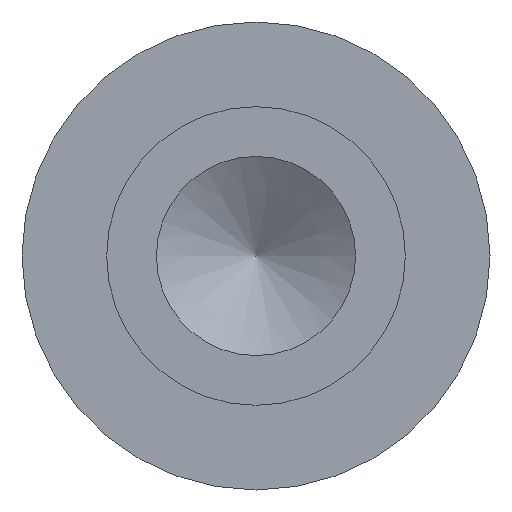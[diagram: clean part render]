
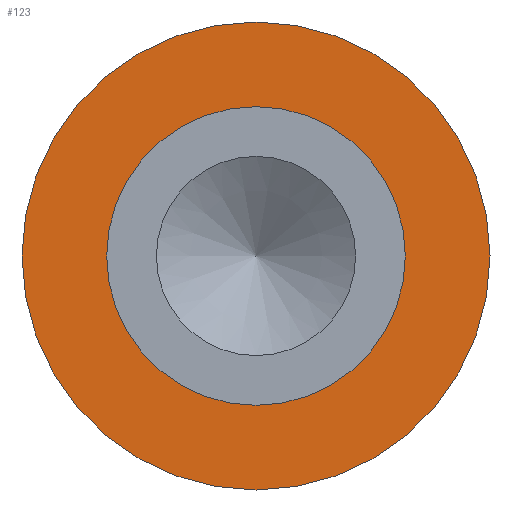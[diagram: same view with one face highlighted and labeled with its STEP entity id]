
A CAD part, left-side view. The second image highlights one B-rep face of the part: STEP entity #123.
In plain terms, the highlighted planar face has unit normal (-1, 0, 0).
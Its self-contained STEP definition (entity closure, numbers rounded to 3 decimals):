
#15=PLANE($,#147);
#24=FACE_BOUND($,#58,.T.);
#40=FACE_OUTER_BOUND($,#57,.T.);
#57=EDGE_LOOP($,(#107));
#58=EDGE_LOOP($,(#108));
#68=CIRCLE($,#143,1.194);
#69=CIRCLE($,#145,0.762);
#78=VERTEX_POINT($,#216);
#79=VERTEX_POINT($,#219);
#88=EDGE_CURVE($,#78,#78,#68,.T.);
#89=EDGE_CURVE($,#79,#79,#69,.T.);
#107=ORIENTED_EDGE($,*,*,#88,.F.);
#108=ORIENTED_EDGE($,*,*,#89,.T.);
#123=ADVANCED_FACE($,(#40,#24),#15,.T.);
#143=AXIS2_PLACEMENT_3D($,#217,#181,#182);
#145=AXIS2_PLACEMENT_3D($,#220,#185,#186);
#147=AXIS2_PLACEMENT_3D($,#223,#189,#190);
#181=DIRECTION('center_axis',(1.,0.,0.));
#182=DIRECTION('ref_axis',(0.,1.,0.));
#185=DIRECTION('center_axis',(1.,0.,0.));
#186=DIRECTION('ref_axis',(0.,1.,0.));
#189=DIRECTION('center_axis',(-1.,0.,0.));
#190=DIRECTION('ref_axis',(0.,0.,1.));
#216=CARTESIAN_POINT('',(2.388,1.194,0.));
#217=CARTESIAN_POINT('Origin',(2.388,0.,0.));
#219=CARTESIAN_POINT('',(2.388,0.762,0.));
#220=CARTESIAN_POINT('Origin',(2.388,0.,0.));
#223=CARTESIAN_POINT('Origin',(2.388,0.978,0.));
